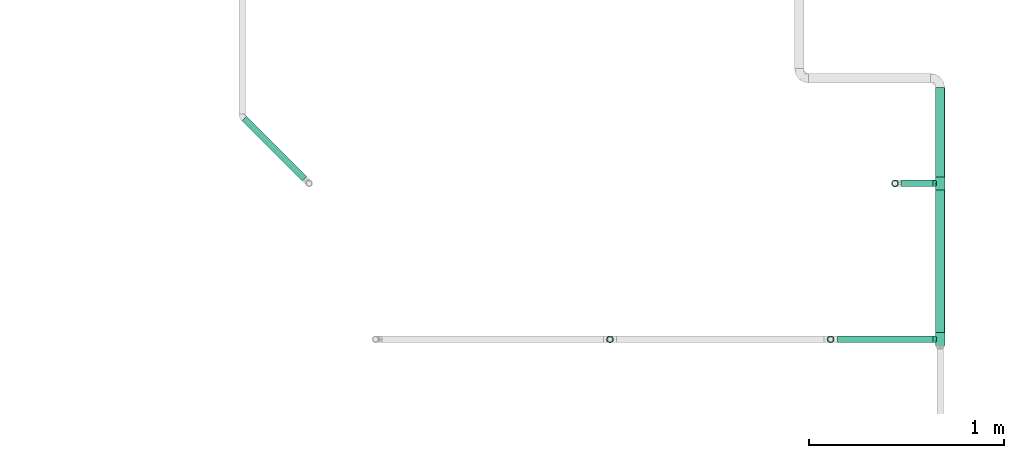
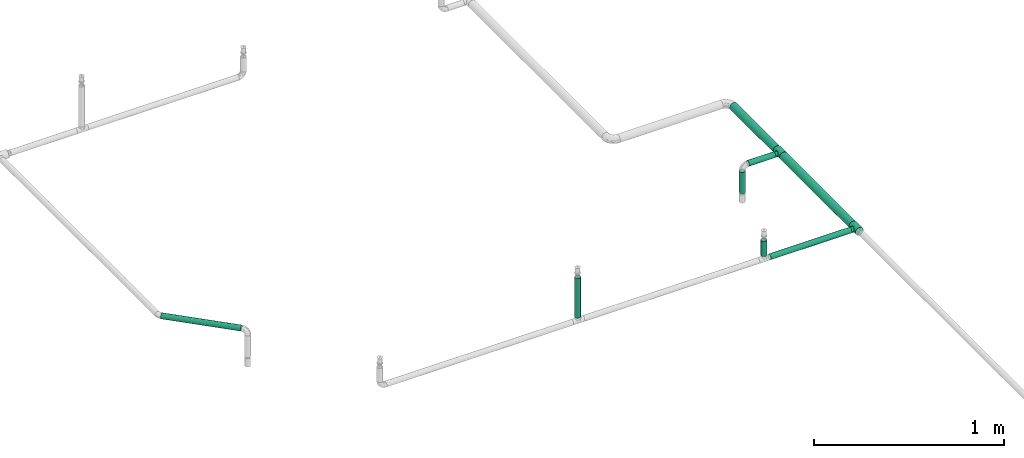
# One storey, part 3 of 157: 8 flow segments, 2 flow fittings.
"""IFC2X3 building model written with IfcOpenShell, lengths in millimetres."""

from ifc_helpers import new_model, entity, si_unit, converted_unit, derived_unit, direction, frame, origin_with_axes, origin_2d_with_axis, place, context, subcontext, project, spatial, hollow_circle, extrude, open_shell, surface_model, source, transform, mapped, type_object, element, save


model = new_model("IFC2X3")

# Units and contexts
model_context = context("Model", 3, precision=0.01, world=frame((0.0, 4.29681676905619e-09, 0.0)), true_north=direction((4.01073788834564e-13, 1.0)))
plan_context = context("Plan", 3, precision=0.01, world=frame((0.0, 4.29681676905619e-09, 0.0)), true_north=direction((4.01073788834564e-13, 1.0)))
body_context = subcontext(model_context, "Body", "Model", "MODEL_VIEW")
ifc_project = project(units=[converted_unit("PLANEANGLEUNIT", "DEGREE", entity("IfcPositiveLengthMeasure", 0.0174532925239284), si_unit("PLANEANGLEUNIT", "RADIAN"), dimensions=[0, 0, 0, 0, 0, 0, 0]), si_unit("AREAUNIT", "SQUARE_METRE"), si_unit("LENGTHUNIT", "METRE", prefix="MILLI"), si_unit("MASSUNIT", "GRAM", prefix="KILO"), si_unit("POWERUNIT", "WATT"), si_unit("PRESSUREUNIT", "PASCAL"), si_unit("FORCEUNIT", "NEWTON", prefix="KILO"), si_unit("ELECTRICCURRENTUNIT", "AMPERE"), si_unit("THERMODYNAMICTEMPERATUREUNIT", "DEGREE_CELSIUS"), si_unit("TIMEUNIT", "SECOND"), si_unit("VOLUMEUNIT", "CUBIC_METRE"), derived_unit("LINEARVELOCITYUNIT", [(si_unit("LENGTHUNIT", "METRE"), 1), (si_unit("TIMEUNIT", "SECOND"), -1)]), derived_unit("VOLUMETRICFLOWRATEUNIT", [(si_unit("VOLUMEUNIT", "CUBIC_METRE"), 1), (si_unit("TIMEUNIT", "SECOND"), -1)]), derived_unit("THERMALTRANSMITTANCEUNIT", [(si_unit("POWERUNIT", "WATT"), 1), (si_unit("THERMODYNAMICTEMPERATUREUNIT", "KELVIN"), -1), (si_unit("AREAUNIT", "SQUARE_METRE"), -1)])], contexts=[model_context, plan_context])

# Site, building, storey
site_placement = place(None, frame((0.0, -4.29681676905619e-09, 0.0), z_axis=(0.0, 0.0, 1.0), x_axis=(1.0, 0.0, 0.0)))
site = spatial("IfcSite", under=ifc_project, at=site_placement, CompositionType="ELEMENT")
building_placement = place(site_placement, frame((0.0, 4.29681676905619e-09, 0.0), z_axis=(0.0, 0.0, 1.0), x_axis=(1.0, 0.0, 0.0)))
building = spatial("IfcBuilding", under=site, at=building_placement, Name="mc-building", CompositionType="ELEMENT")
storey_placement = place(building_placement, frame((0.0, 0.0, 204000.0), z_axis=(0.0, 0.0, 1.0), x_axis=(1.0, 0.0, 0.0)))
storey = spatial("IfcBuildingStorey", under=building, at=storey_placement, Name="Nivå D", CompositionType="ELEMENT", Elevation=204000.0)

# Flow fittings
pipe_fitting_type = type_object("IfcPipeFittingType", Name="magi_pipe_fe_tee_centric_90_NOR", PredefinedType="JUNCTION")
shared_shape_1 = source(origin_with_axes(), body_context, "Body", "SurfaceModel", [
    surface_model("IfcShellBasedSurfaceModel", [(-33.8, 0.0, -24.2), (-33.8, -6.26342, -23.37541), (-33.8, 6.26342, -23.37541), (-33.8, 12.1, -20.95781), (-33.8, 17.11198, -17.11198), (-33.8, 20.95781, -12.1), (-33.8, -23.37541, -6.26342), (-33.8, 23.37541, -6.26342), (-33.8, -17.11198, -17.11198), (-33.8, -20.95781, -12.1), (-33.8, -12.1, -20.95781), (-33.8, -24.2, 0.0), (-33.8, -23.37541, 6.26342), (-33.8, 20.95781, 12.1), (-33.8, 23.37541, 6.26342), (-33.8, 24.2, 0.0), (-33.8, 12.1, 20.95781), (-33.8, 17.11198, 17.11198), (-33.8, -17.11198, 17.11198), (-33.8, 6.26342, 23.37541), (-33.8, -20.95781, 12.1), (-33.8, -12.1, 20.95781), (-33.8, -6.26342, 23.37541), (-33.8, 0.0, 24.2), (33.8, 6.26342, -23.37541), (33.8, -6.26342, -23.37541), (33.8, 0.0, -24.2), (33.8, 17.11198, -17.11198), (33.8, 12.1, -20.95781), (33.8, -23.37541, -6.26342), (33.8, 20.95781, -12.1), (33.8, 23.37541, -6.26342), (33.8, -17.11198, -17.11198), (33.8, -12.1, -20.95781), (33.8, -20.95781, -12.1), (33.8, -24.2, 0.0), (33.8, 24.2, 0.0), (33.8, 23.37541, 6.26342), (33.8, 20.95781, 12.1), (33.8, -23.37541, 6.26342), (33.8, -17.11198, 17.11198), (33.8, 12.1, 20.95781), (33.8, 17.11198, 17.11198), (33.8, 6.26342, 23.37541), (33.8, -20.95781, 12.1), (33.8, -12.1, 20.95781), (33.8, 0.0, 24.2), (33.8, -6.26342, 23.37541), (15.81824, -23.45734, 5.94922), (16.9, -24.2, 0.0), (12.87025, -21.57947, 10.95293), (33.8, -19.0349, 14.60599), (8.52813, -19.30697, 14.59044), (3.03527, -17.5853, 16.6252), (-3.04044, -17.58619, 16.62425), (-8.52961, -19.30762, 14.58958), (-33.8, -19.0349, 14.60599), (-16.9, -24.2, 0.0), (-15.81885, -23.45775, 5.9476), (-12.87368, -21.58151, 10.9489), (3.03527, -17.5853, -16.6252), (33.8, -19.0349, -14.60599), (8.52813, -19.30697, -14.59044), (-8.52961, -19.30762, -14.58958), (-33.8, -19.0349, -14.60599), (12.87025, -21.57947, -10.95293), (-3.04044, -17.58619, -16.62425), (15.81824, -23.45734, -5.94922), (-12.87368, -21.58151, -10.9489), (-15.81885, -23.45775, -5.9476), (4.37404, -36.3, -16.32415), (-16.9, -36.3, 0.0), (0.0, -36.3, -16.9), (14.63583, -36.3, -8.45), (8.45, -36.3, -14.63583), (16.32415, -36.3, -4.37404), (11.9501, -36.3, -11.9501), (-11.9501, -36.3, -11.9501), (-8.45, -36.3, -14.63583), (-4.37404, -36.3, -16.32415), (-14.63583, -36.3, -8.45), (-16.32415, -36.3, -4.37404), (16.9, -36.3, 0.0), (8.45, -36.3, 14.63583), (16.32415, -36.3, 4.37404), (14.63583, -36.3, 8.45), (-8.45, -36.3, 14.63583), (11.9501, -36.3, 11.9501), (4.37404, -36.3, 16.32415), (-16.32415, -36.3, 4.37404), (-11.9501, -36.3, 11.9501), (-14.63583, -36.3, 8.45), (0.0, -36.3, 16.9), (-4.37404, -36.3, 16.32415), (-16.35943, -23.82888, 2.9738), (16.35912, -23.82867, 2.97461), (-0.00259, -17.58575, 16.62472), (16.35912, -23.82867, -2.97461), (-0.00259, -17.58575, -16.62472), (-16.35943, -23.82888, -2.9738)], [open_shell([[[0, 1, 2]], [[3, 2, 4]], [[5, 2, 6]], [[4, 2, 5]], [[7, 5, 6]], [[8, 9, 10]], [[1, 10, 9]], [[1, 9, 2]], [[9, 6, 2]], [[6, 11, 7]], [[11, 12, 7]], [[13, 14, 15]], [[13, 15, 12]], [[16, 17, 18]], [[12, 17, 13]], [[19, 16, 18]], [[20, 18, 12]], [[18, 17, 12]], [[21, 22, 18]], [[23, 18, 22]], [[18, 23, 19]], [[7, 12, 15]], [[24, 25, 26]], [[27, 24, 28]], [[29, 24, 30]], [[30, 24, 27]], [[29, 30, 31]], [[25, 32, 33]], [[32, 25, 34]], [[24, 34, 25]], [[24, 29, 34]], [[31, 35, 29]], [[31, 36, 35]], [[36, 37, 38]], [[39, 36, 38]], [[40, 38, 41]], [[41, 38, 42]], [[40, 41, 43]], [[39, 40, 44]], [[39, 38, 40]], [[45, 46, 47]], [[46, 45, 40]], [[43, 46, 40]], [[36, 39, 35]], [[35, 39, 48]], [[48, 49, 35]], [[39, 50, 48]], [[51, 40, 52]], [[52, 50, 44]], [[53, 52, 40]], [[54, 53, 21]], [[44, 50, 39]], [[55, 18, 56]], [[57, 58, 11]], [[12, 11, 58]], [[58, 59, 12]], [[55, 54, 18]], [[55, 20, 59]], [[20, 55, 56]], [[59, 20, 12]], [[18, 54, 21]], [[52, 44, 51]], [[53, 40, 45]], [[23, 47, 46]], [[22, 45, 47]], [[19, 46, 43]], [[38, 37, 14]], [[17, 41, 42]], [[13, 42, 38]], [[43, 41, 16]], [[15, 37, 36]], [[21, 45, 22]], [[22, 47, 23]], [[19, 23, 46]], [[43, 16, 19]], [[16, 41, 17]], [[13, 17, 42]], [[14, 13, 38]], [[37, 15, 14]], [[45, 21, 53]], [[5, 31, 30]], [[7, 36, 31]], [[4, 30, 27]], [[26, 25, 1]], [[2, 28, 24]], [[0, 24, 26]], [[27, 28, 3]], [[10, 25, 33]], [[15, 36, 7]], [[7, 31, 5]], [[4, 5, 30]], [[27, 3, 4]], [[3, 28, 2]], [[0, 2, 24]], [[1, 0, 26]], [[25, 10, 1]], [[33, 60, 10]], [[61, 34, 62]], [[63, 9, 64]], [[62, 60, 32]], [[34, 65, 62]], [[66, 10, 60]], [[29, 35, 67]], [[67, 65, 29]], [[49, 67, 35]], [[29, 65, 34]], [[66, 63, 8]], [[62, 32, 61]], [[64, 8, 63]], [[63, 68, 9]], [[8, 10, 66]], [[68, 69, 6]], [[69, 11, 6]], [[11, 69, 57]], [[68, 6, 9]], [[60, 33, 32]], [[70, 71, 72]], [[73, 70, 74]], [[73, 75, 70]], [[73, 74, 76]], [[71, 70, 75]], [[72, 77, 78]], [[78, 79, 72]], [[80, 71, 81]], [[77, 72, 80]], [[71, 80, 72]], [[75, 82, 71]], [[83, 82, 84]], [[83, 84, 85]], [[86, 71, 83]], [[83, 85, 87]], [[86, 83, 88]], [[89, 90, 91]], [[90, 89, 86]], [[86, 92, 93]], [[89, 71, 86]], [[88, 92, 86]], [[83, 71, 82]], [[89, 94, 71]], [[59, 91, 90]], [[89, 91, 58]], [[90, 86, 55]], [[89, 58, 94]], [[94, 57, 71]], [[58, 91, 59]], [[95, 48, 84]], [[55, 93, 54]], [[55, 59, 90]], [[92, 53, 96]], [[55, 86, 93]], [[53, 92, 88]], [[83, 52, 88]], [[87, 85, 50]], [[87, 52, 83]], [[48, 85, 84]], [[87, 50, 52]], [[52, 53, 88]], [[82, 95, 84]], [[48, 50, 85]], [[95, 82, 49]], [[92, 54, 93]], [[96, 54, 92]], [[75, 97, 82]], [[65, 73, 76]], [[75, 73, 67]], [[76, 74, 62]], [[97, 49, 82]], [[67, 73, 65]], [[62, 70, 60]], [[62, 65, 76]], [[72, 66, 98]], [[62, 74, 70]], [[99, 71, 57]], [[99, 69, 81]], [[75, 67, 97]], [[79, 66, 72]], [[69, 80, 81]], [[77, 80, 68]], [[72, 60, 70]], [[79, 63, 66]], [[63, 79, 78]], [[78, 77, 63]], [[63, 77, 68]], [[68, 80, 69]], [[71, 99, 81]], [[98, 60, 72]]])]),
])
for number, where, z_axis, x_axis, name in (
    (1, (531330.55939, 405200.0, 2880.0), (0.0, 0.0, 1.0), (0.0, -1.0, 0.0), "magi_pipe_fe_tee_centric_90_NOR"),
    (2, (531330.55939, 404401.65, 2880.0), (0.0, 0.0, 1.0), (0.0, -1.0, 0.0), "magi_pipe_fe_tee_centric_90_NOR"),
):
    element("IfcFlowFitting", number, at=place(storey_placement, frame(where, z_axis=z_axis, x_axis=x_axis)), inside=storey, type_object=pipe_fitting_type, Name=name, context=body_context, shape_type="MappedRepresentation", body=[
        mapped(shared_shape_1, transform((0.0, 0.0, 0.0), scale=1.0)),
    ])

# Flow segments
pipe_segment_type = type_object("IfcPipeSegmentType", Name="Stålrør normaltykke", PredefinedType="RIGIDSEGMENT")
shared_shape_2 = source(origin_with_axes(), body_context, "Body", "SweptSolid", [
    extrude(hollow_circle(Radius=16.9, WallThickness=2.0, at=origin_2d_with_axis()), frame((0.0, 0.0, 0.0), z_axis=(1.0, 0.0, 0.0), x_axis=(0.0, 1.0, 0.0)), (0.0, 0.0, 1.0), 254.8),
])
flow_segment_1_placement = place(storey_placement, frame((529640.35, 404401.65, 3160.14799999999), z_axis=(0.0, 1.0, 0.0), x_axis=(0.0, 0.0, -1.0)))
element("IfcFlowSegment", 3, at=flow_segment_1_placement, inside=storey, type_object=pipe_segment_type, Name="Stålrør normaltykke", context=body_context, shape_type="MappedRepresentation", body=[
    mapped(shared_shape_2, transform((0.0, 0.0, 0.0), scale=1.0)),
])
shared_shape_3 = source(origin_with_axes(), body_context, "Body", "SweptSolid", [
    extrude(hollow_circle(Radius=16.9, WallThickness=2.0, at=origin_2d_with_axis()), frame((0.0, 0.0, 0.0), z_axis=(1.0, 0.0, 0.0), x_axis=(0.0, 1.0, 0.0)), (0.0, 0.0, 1.0), 490.1),
])
flow_segment_2_placement = place(storey_placement, frame((530804.15, 404401.65, 2880.0), z_axis=(0.0, 0.0, 1.0), x_axis=(1.0, 0.0, 0.0)))
element("IfcFlowSegment", 4, at=flow_segment_2_placement, inside=storey, type_object=pipe_segment_type, Name="Stålrør normaltykke", context=body_context, shape_type="MappedRepresentation", body=[
    mapped(shared_shape_3, transform((0.0, 0.0, 0.0), scale=1.0)),
])
shared_shape_4 = source(origin_with_axes(), body_context, "Body", "SweptSolid", [
    extrude(hollow_circle(Radius=24.1, WallThickness=2.0, at=origin_2d_with_axis()), frame((0.0, 0.0, 0.0), z_axis=(1.0, 0.0, 0.0), x_axis=(0.0, 1.0, 0.0)), (0.0, 0.0, 1.0), 456.5),
])
flow_segment_3_placement = place(storey_placement, frame((531330.55939, 405233.8, 2880.0), z_axis=(0.0, 0.0, 1.0), x_axis=(0.0, 1.0, 0.0)))
element("IfcFlowSegment", 5, at=flow_segment_3_placement, inside=storey, type_object=pipe_segment_type, Name="Stålrør normaltykke", context=body_context, shape_type="MappedRepresentation", body=[
    mapped(shared_shape_4, transform((0.0, 0.0, 0.0), scale=1.0)),
])
shared_shape_5 = source(origin_with_axes(), body_context, "Body", "SweptSolid", [
    extrude(hollow_circle(Radius=16.9, WallThickness=2.0, at=origin_2d_with_axis()), frame((0.0, 0.0, 0.0), z_axis=(1.0, 0.0, 0.0), x_axis=(0.0, 1.0, 0.0)), (0.0, 0.0, 1.0), 136.8),
])
flow_segment_4_placement = place(storey_placement, frame((531100.0, 405200.0, 2709.35200000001), z_axis=(0.0, 1.0, 0.0), x_axis=(0.0, 0.0, 1.0)))
element("IfcFlowSegment", 6, at=flow_segment_4_placement, inside=storey, type_object=pipe_segment_type, Name="Stålrør normaltykke", context=body_context, shape_type="MappedRepresentation", body=[
    mapped(shared_shape_5, transform((0.0, 0.0, 0.0), scale=1.0)),
])
shared_shape_6 = source(origin_with_axes(), body_context, "Body", "SweptSolid", [
    extrude(hollow_circle(Radius=16.9, WallThickness=2.0, at=origin_2d_with_axis()), frame((0.0, 0.0, 0.0), z_axis=(1.0, 0.0, 0.0), x_axis=(0.0, 1.0, 0.0)), (0.0, 0.0, 1.0), 160.5),
])
flow_segment_5_placement = place(storey_placement, frame((531133.8, 405200.0, 2880.0), z_axis=(0.0, 0.0, 1.0), x_axis=(1.0, 0.0, 0.0)))
element("IfcFlowSegment", 7, at=flow_segment_5_placement, inside=storey, type_object=pipe_segment_type, Name="Stålrør normaltykke", context=body_context, shape_type="MappedRepresentation", body=[
    mapped(shared_shape_6, transform((0.0, 0.0, 0.0), scale=1.0)),
])
shared_shape_7 = source(origin_with_axes(), body_context, "Body", "SweptSolid", [
    extrude(hollow_circle(Radius=16.9, WallThickness=2.0, at=origin_2d_with_axis()), frame((0.0, 0.0, 0.0), z_axis=(1.0, 0.0, 0.0), x_axis=(0.0, 1.0, 0.0)), (0.0, 0.0, 1.0), 435.5),
])
flow_segment_6_placement = place(storey_placement, frame((527768.13549, 405531.86451, 2879.99694000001), z_axis=(0.0, 0.0, 1.0), x_axis=(0.707106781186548, -0.707106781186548, 0.0)))
element("IfcFlowSegment", 8, at=flow_segment_6_placement, inside=storey, type_object=pipe_segment_type, Name="Stålrør normaltykke", context=body_context, shape_type="MappedRepresentation", body=[
    mapped(shared_shape_7, transform((0.0, 0.0, 0.0), scale=1.0)),
])
shared_shape_8 = source(origin_with_axes(), body_context, "Body", "SweptSolid", [
    extrude(hollow_circle(Radius=24.1, WallThickness=2.0, at=origin_2d_with_axis()), frame((0.0, 0.0, 0.0), z_axis=(1.0, 0.0, 0.0), x_axis=(0.0, 1.0, 0.0)), (0.0, 0.0, 1.0), 730.7),
])
flow_segment_7_placement = place(storey_placement, frame((531330.55939, 404435.45, 2880.0), z_axis=(0.0, 0.0, 1.0), x_axis=(0.0, 1.0, 0.0)))
element("IfcFlowSegment", 9, at=flow_segment_7_placement, inside=storey, type_object=pipe_segment_type, Name="Stålrør normaltykke", context=body_context, shape_type="MappedRepresentation", body=[
    mapped(shared_shape_8, transform((0.0, 0.0, 0.0), scale=1.0)),
])
shared_shape_9 = source(origin_with_axes(), body_context, "Body", "SweptSolid", [
    extrude(hollow_circle(Radius=16.9, WallThickness=2.0, at=origin_2d_with_axis()), frame((0.0, 0.0, 0.0), z_axis=(1.0, 0.0, 0.0), x_axis=(0.0, 1.0, 0.0)), (0.0, 0.0, 1.0), 96.8),
])
flow_segment_8_placement = place(storey_placement, frame((530770.35, 404401.65, 2905.35000000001), z_axis=(0.0, -1.0, 0.0), x_axis=(0.0, 0.0, 1.0)))
element("IfcFlowSegment", 10, at=flow_segment_8_placement, inside=storey, type_object=pipe_segment_type, Name="Stålrør normaltykke", context=body_context, shape_type="MappedRepresentation", body=[
    mapped(shared_shape_9, transform((0.0, 0.0, 0.0), scale=1.0, scale2=1.0, scale3=1.0, uniform=False)),
])

save(model, "model.ifc")
